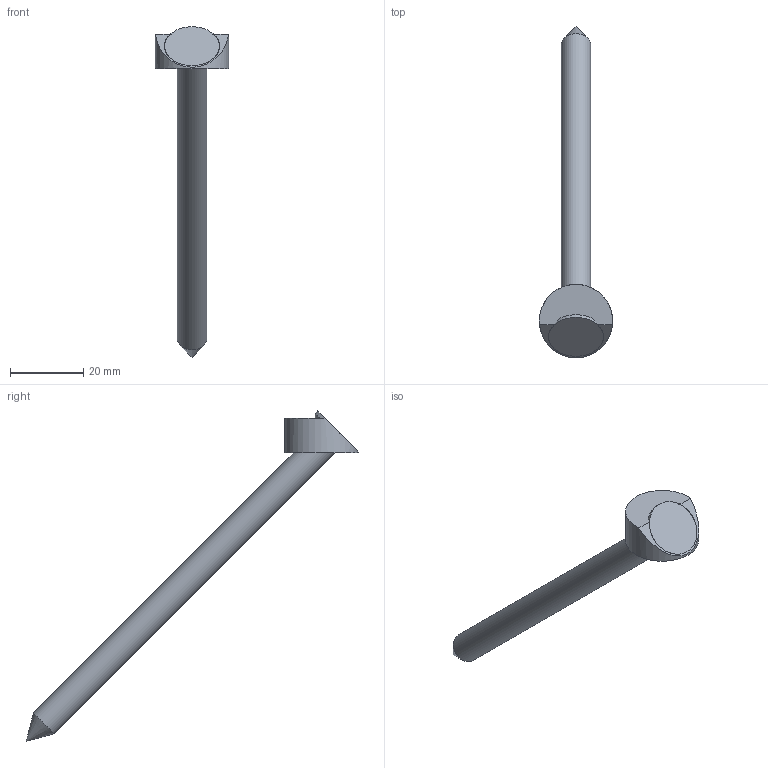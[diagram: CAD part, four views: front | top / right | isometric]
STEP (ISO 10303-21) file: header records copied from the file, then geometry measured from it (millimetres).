
FILE_DESCRIPTION(/* description */ ('Unknown'),/* implementation_level */ '2;1');
FILE_NAME(/* name */ 'T-JOINT_D20_W45_SK-Schraube 8x120 mm',/* time_stamp */ '2022-02-02T10:50:57+01:00',/* author */ ('Unknown'),/* organization */ ('Unknown'),/* preprocessor_version */ 'ST-DEVELOPER v16.7',/* originating_system */ 'Solid Edge',/* authorisation */ 'Unknown');
FILE_SCHEMA (('AUTOMOTIVE_DESIGN {1 0 10303 214 3 1 1}'));
Length unit declared in the file: millimetre
Products named in the file (3): T-Joint 20_SK 8x120; Rundzylinderscheibe_8er_Schraube_45_V3; SK_Schraube_8x120
Assembly tree (2 placements, depth 2):
  T-Joint 20_SK 8x120
    Rundzylinderscheibe_8er_Schraube_45_V3
    SK_Schraube_8x120
Bounding box: 20 x 90.56 x 90.16 mm (x, y, z)
Volume: 7962.9 mm3; surface area: 4398.4 mm2
Topology: 2 solids, 2 shells, 11 faces, 24 edges, 15 vertices
Faces by surface type: plane 4, cylinder 4, cone 3
Full cylindrical faces by diameter (mm): 8 x2, 15 x1, 20 x1
Entity records: 321 total; most frequent: DIRECTION 50, CARTESIAN_POINT 45, ORIENTED_EDGE 26, AXIS2_PLACEMENT_3D 24, FACE_BOUND 19, EDGE_LOOP 18, EDGE_CURVE 13, VERTEX_POINT 12
